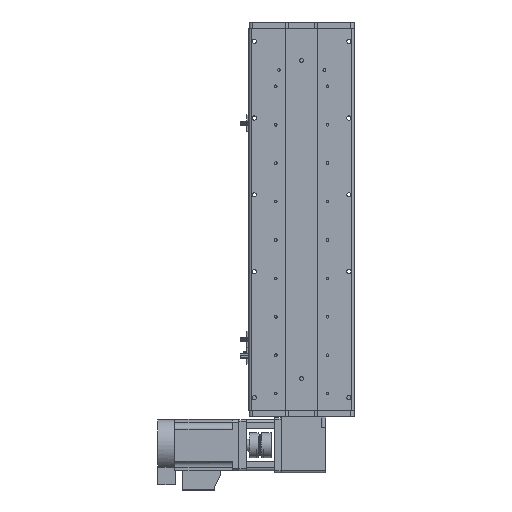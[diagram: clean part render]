
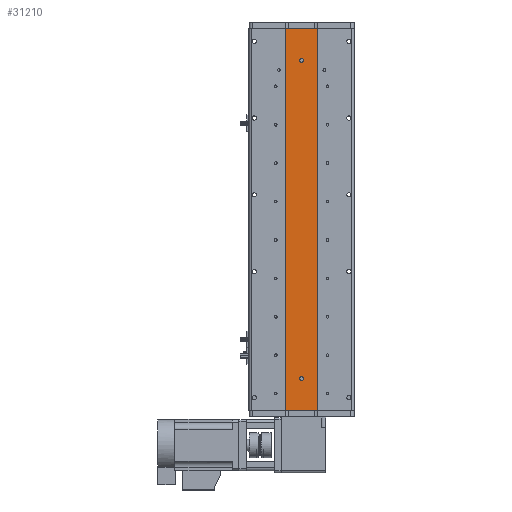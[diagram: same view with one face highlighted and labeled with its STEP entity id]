
A CAD part, front view. The second image highlights one B-rep face of the part: STEP entity #31210.
In plain terms, the highlighted planar face has unit normal (0, -1, 0).
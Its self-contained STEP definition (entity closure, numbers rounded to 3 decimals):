
#493 = LINE ( 'NONE', #26085, #17946 ) ;
#1279 = PLANE ( 'NONE',  #34246 ) ;
#2085 = EDGE_CURVE ( 'NONE', #17803, #10372, #8917, .T. ) ;
#2446 = CARTESIAN_POINT ( 'NONE',  ( 25., 1., 298.5 ) ) ;
#2566 = DIRECTION ( 'NONE',  ( 0., 0., 1. ) ) ;
#2609 = ORIENTED_EDGE ( 'NONE', *, *, #30001, .F. ) ;
#2982 = AXIS2_PLACEMENT_3D ( 'NONE', #15441, #39851, #18960 ) ;
#3589 = VECTOR ( 'NONE', #23464, 1000. ) ;
#4486 = CARTESIAN_POINT ( 'NONE',  ( 0., 1., -251.5 ) ) ;
#4526 = EDGE_CURVE ( 'NONE', #32710, #44571, #24017, .T. ) ;
#4795 = DIRECTION ( 'NONE',  ( 0., 1., 0. ) ) ;
#5192 = DIRECTION ( 'NONE',  ( 0., 0., -1. ) ) ;
#5764 = LINE ( 'NONE', #18800, #31437 ) ;
#5947 = DIRECTION ( 'NONE',  ( 0., 0., -1. ) ) ;
#6295 = CARTESIAN_POINT ( 'NONE',  ( 0., 1., -248.5 ) ) ;
#6770 = CARTESIAN_POINT ( 'NONE',  ( 0., 1., -245.5 ) ) ;
#7330 = AXIS2_PLACEMENT_3D ( 'NONE', #44338, #23431, #2566 ) ;
#8575 = DIRECTION ( 'NONE',  ( 0., 1., 0. ) ) ;
#8917 = CIRCLE ( 'NONE', #29448, 3. ) ;
#9872 = DIRECTION ( 'NONE',  ( 0., 0., 1. ) ) ;
#10372 = VERTEX_POINT ( 'NONE', #19226 ) ;
#11218 = FACE_OUTER_BOUND ( 'NONE', #20442, .T. ) ;
#13244 = CARTESIAN_POINT ( 'NONE',  ( 0., 1., 251.5 ) ) ;
#13269 = ORIENTED_EDGE ( 'NONE', *, *, #19698, .T. ) ;
#13731 = CARTESIAN_POINT ( 'NONE',  ( -25., 1., 298.5 ) ) ;
#14817 = EDGE_LOOP ( 'NONE', ( #44815, #25479 ) ) ;
#15010 = VERTEX_POINT ( 'NONE', #34828 ) ;
#15314 = EDGE_CURVE ( 'NONE', #36853, #30327, #493, .T. ) ;
#15441 = CARTESIAN_POINT ( 'NONE',  ( 0., 1., 248.5 ) ) ;
#16893 = ORIENTED_EDGE ( 'NONE', *, *, #37857, .F. ) ;
#17803 = VERTEX_POINT ( 'NONE', #13244 ) ;
#17946 = VECTOR ( 'NONE', #5192, 1000. ) ;
#18800 = CARTESIAN_POINT ( 'NONE',  ( 25., 1., -298.5 ) ) ;
#18960 = DIRECTION ( 'NONE',  ( 0., 0., 1. ) ) ;
#19226 = CARTESIAN_POINT ( 'NONE',  ( 0., 1., 245.5 ) ) ;
#19379 = FACE_BOUND ( 'NONE', #32433, .T. ) ;
#19698 = EDGE_CURVE ( 'NONE', #30327, #15010, #5764, .T. ) ;
#19954 = VECTOR ( 'NONE', #5947, 1000. ) ;
#20442 = EDGE_LOOP ( 'NONE', ( #13269, #16893, #2609, #39011 ) ) ;
#21039 = LINE ( 'NONE', #2446, #19954 ) ;
#21547 = EDGE_CURVE ( 'NONE', #44571, #32710, #34549, .T. ) ;
#23431 = DIRECTION ( 'NONE',  ( 0., 1., 0. ) ) ;
#23464 = DIRECTION ( 'NONE',  ( 1., 0., 0. ) ) ;
#24017 = CIRCLE ( 'NONE', #7330, 3. ) ;
#24859 = CIRCLE ( 'NONE', #2982, 3. ) ;
#25234 = ORIENTED_EDGE ( 'NONE', *, *, #21547, .T. ) ;
#25479 = ORIENTED_EDGE ( 'NONE', *, *, #2085, .T. ) ;
#25781 = DIRECTION ( 'NONE',  ( 1., 0., 0. ) ) ;
#26085 = CARTESIAN_POINT ( 'NONE',  ( -25., 1., 298.5 ) ) ;
#28249 = CARTESIAN_POINT ( 'NONE',  ( 25., 1., 298.5 ) ) ;
#28502 = CARTESIAN_POINT ( 'NONE',  ( -25., 1., -298.5 ) ) ;
#29033 = CARTESIAN_POINT ( 'NONE',  ( 25., 1., 298.5 ) ) ;
#29184 = DIRECTION ( 'NONE',  ( 0., 0., 1. ) ) ;
#29448 = AXIS2_PLACEMENT_3D ( 'NONE', #29460, #8575, #32979 ) ;
#29460 = CARTESIAN_POINT ( 'NONE',  ( 0., 1., 248.5 ) ) ;
#30001 = EDGE_CURVE ( 'NONE', #36853, #45220, #40713, .T. ) ;
#30327 = VERTEX_POINT ( 'NONE', #28502 ) ;
#30719 = DIRECTION ( 'NONE',  ( 0., 1., 0. ) ) ;
#31210 = ADVANCED_FACE ( 'NONE', ( #19379, #37949, #11218 ), #1279, .F. ) ;
#31437 = VECTOR ( 'NONE', #25781, 1000. ) ;
#32433 = EDGE_LOOP ( 'NONE', ( #35733, #25234 ) ) ;
#32710 = VERTEX_POINT ( 'NONE', #4486 ) ;
#32979 = DIRECTION ( 'NONE',  ( 0., 0., 1. ) ) ;
#34246 = AXIS2_PLACEMENT_3D ( 'NONE', #29033, #4795, #29184 ) ;
#34549 = CIRCLE ( 'NONE', #40937, 3. ) ;
#34828 = CARTESIAN_POINT ( 'NONE',  ( 25., 1., -298.5 ) ) ;
#35733 = ORIENTED_EDGE ( 'NONE', *, *, #4526, .T. ) ;
#36853 = VERTEX_POINT ( 'NONE', #13731 ) ;
#37674 = EDGE_CURVE ( 'NONE', #10372, #17803, #24859, .T. ) ;
#37857 = EDGE_CURVE ( 'NONE', #45220, #15010, #21039, .T. ) ;
#37949 = FACE_BOUND ( 'NONE', #14817, .T. ) ;
#39011 = ORIENTED_EDGE ( 'NONE', *, *, #15314, .T. ) ;
#39851 = DIRECTION ( 'NONE',  ( 0., 1., 0. ) ) ;
#40713 = LINE ( 'NONE', #44092, #3589 ) ;
#40937 = AXIS2_PLACEMENT_3D ( 'NONE', #6295, #30719, #9872 ) ;
#44092 = CARTESIAN_POINT ( 'NONE',  ( 25., 1., 298.5 ) ) ;
#44338 = CARTESIAN_POINT ( 'NONE',  ( 0., 1., -248.5 ) ) ;
#44571 = VERTEX_POINT ( 'NONE', #6770 ) ;
#44815 = ORIENTED_EDGE ( 'NONE', *, *, #37674, .T. ) ;
#45220 = VERTEX_POINT ( 'NONE', #28249 ) ;
